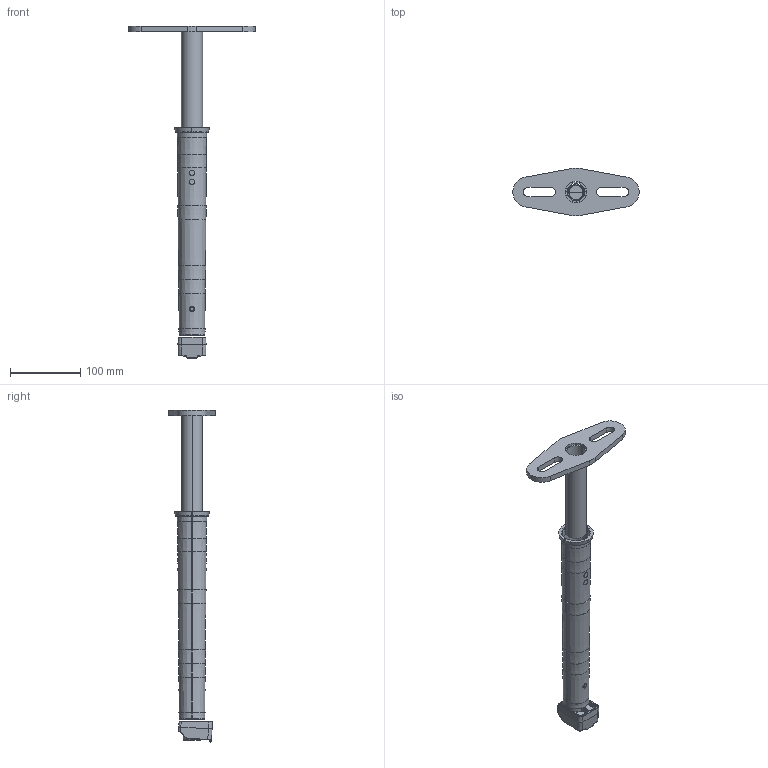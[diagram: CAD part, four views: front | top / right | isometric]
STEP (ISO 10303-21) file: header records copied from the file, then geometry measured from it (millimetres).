
FILE_DESCRIPTION (( 'STEP AP203' ), '1' );
FILE_NAME ('E295108.STEP', '2025-04-02T14:20:18', ( '' ), ( '' ), 'SwSTEP 2.0', 'SolidWorks 2023', '' );
FILE_SCHEMA (( 'CONFIG_CONTROL_DESIGN' ));
Length unit declared in the file: millimetre
Products named in the file (1): E295108
Bounding box: 180 x 67.87 x 472.91 mm (x, y, z)
Surface area: 130525.7 mm2 (no closed solid volume)
Topology: 0 solids, 19 shells, 344 faces, 1154 edges, 802 vertices
Faces by surface type: cylinder 122, plane 104, bspline 55, cone 50, torus 11, sphere 2
Entity records: 19896 total; most frequent: CARTESIAN_POINT 10987, ORIENTED_EDGE 1862, DIRECTION 1603, EDGE_CURVE 1152, VERTEX_POINT 802, AXIS2_PLACEMENT_3D 599, VECTOR 405, LINE 405
